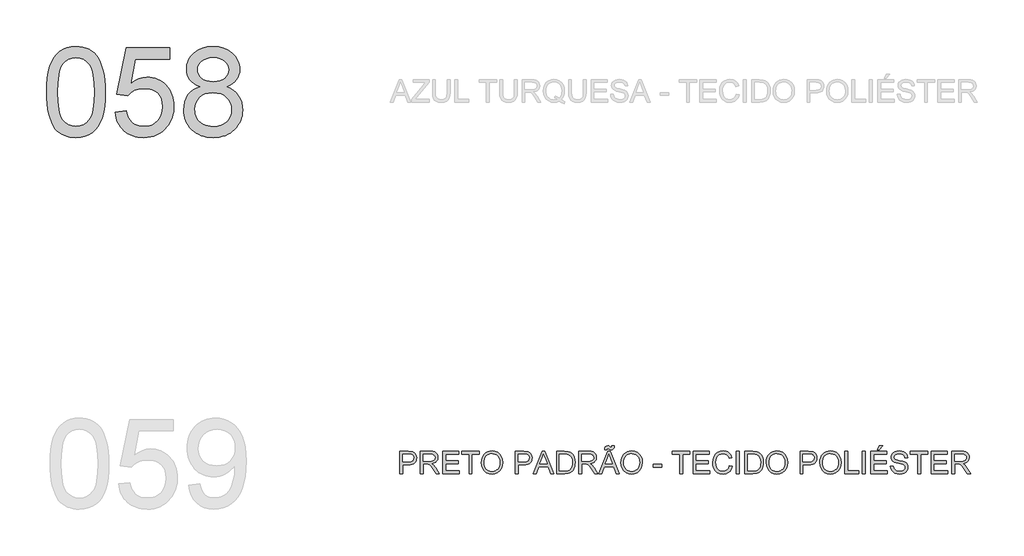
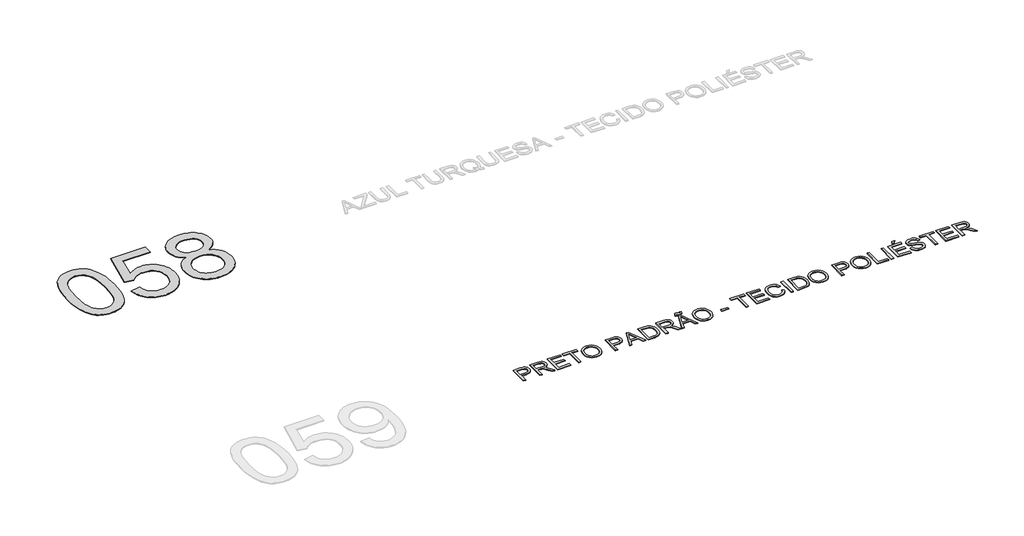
# One storey, part 17 of 35: 2 proxies.
"""IFC4 building model written with IfcOpenShell, lengths in millimetres."""

import ifcopenshell
import ifcopenshell.guid

model = None  # the IFC model being written
_history = None  # IfcOwnerHistory: only IFC2X3 demands one
_inside = {}  # id of a spatial element -> (the spatial element, [elements in it])
_under = {}  # id of a project, library or spatial element -> (it, [spatial elements below it])
_declared = {}  # id of a project -> (the project, [libraries it declares])
_typed = {}  # id of a type object -> (the type object, [elements of that type])
_made_of = {}  # id of a material, layer set ... -> (it, [elements and type objects made of it])


def new_model(schema):
    """Start an empty IFC model of exactly this schema.

    Asked for "IFC4X3", IfcOpenShell would pick the latest addendum, in which some entities
    have other attributes; the version numbers below select the first issue.
    IFC2X3 requires an IfcOwnerHistory on every rooted entity: one is made here for all.
    """
    global model, _history
    if schema == "IFC4X3":
        model = ifcopenshell.file(schema_version=(4, 3, 0, 0))
    else:
        model = ifcopenshell.file(schema=schema)
    _inside.clear()
    _under.clear()
    _declared.clear()
    _typed.clear()
    _made_of.clear()
    _history = None
    if model.schema == "IFC2X3":
        org = make("IfcOrganization", Name="unknown")
        user = make(
            "IfcPersonAndOrganization",
            ThePerson=make("IfcPerson", FamilyName="unknown"),
            TheOrganization=org,
        )
        app = make(
            "IfcApplication",
            ApplicationDeveloper=org,
            Version="unknown",
            ApplicationFullName="unknown",
            ApplicationIdentifier="unknown",
        )
        _history = make(
            "IfcOwnerHistory",
            OwningUser=user,
            OwningApplication=app,
            ChangeAction="ADDED",
            CreationDate=0,
        )
    return model


def make(cls, **values):
    """One entity of the class cls with the attributes given. An attribute that is None is left unset."""
    return model.create_entity(
        cls, **{name: value for name, value in values.items() if value is not None}
    )


def rooted(cls, **values):
    """An entity with a GlobalId (a new one), such as an element, a storey or a relation."""
    return make(cls, GlobalId=ifcopenshell.guid.new(), OwnerHistory=_history, **values)


def si_unit(unit_type, name, prefix=None):
    """IfcSIUnit, for example si_unit("LENGTHUNIT", "METRE", prefix="MILLI")."""
    return make("IfcSIUnit", UnitType=unit_type, Prefix=prefix, Name=name)


def assignment(units):
    """IfcUnitAssignment: the units of a project."""
    return None if units is None else make("IfcUnitAssignment", Units=units)


def point(xyz):
    """IfcCartesianPoint."""
    return None if xyz is None else make("IfcCartesianPoint", Coordinates=xyz)


def direction(xyz):
    """IfcDirection."""
    return None if xyz is None else make("IfcDirection", DirectionRatios=xyz)


def frame(location, z_axis=None, x_axis=None):
    """IfcAxis2Placement3D, a coordinate frame: its origin and axes. An axis left out is left unset."""
    return make(
        "IfcAxis2Placement3D",
        Location=point(location),
        Axis=direction(z_axis),
        RefDirection=direction(x_axis),
    )


def origin():
    """The frame at (0, 0, 0) with its axes left unset."""
    return frame((0.0, 0.0, 0.0))


def origin_with_axes():
    """The frame at (0, 0, 0) with the z axis (0, 0, 1) and the x axis (1, 0, 0) written out."""
    return frame((0.0, 0.0, 0.0), z_axis=(0.0, 0.0, 1.0), x_axis=(1.0, 0.0, 0.0))


def place(relative_to, where):
    """IfcLocalPlacement: puts the frame where relative to a parent placement (None: the world)."""
    return make(
        "IfcLocalPlacement", PlacementRelTo=relative_to, RelativePlacement=where
    )


def context(
    kind, dimensions, precision=None, world=None, true_north=None, identifier=None
):
    """IfcGeometricRepresentationContext, for example the 3D "Model" context."""
    return make(
        "IfcGeometricRepresentationContext",
        ContextIdentifier=identifier,
        ContextType=kind,
        CoordinateSpaceDimension=dimensions,
        Precision=precision,
        WorldCoordinateSystem=world,
        TrueNorth=true_north,
    )


def project(units=None, contexts=None):
    """IfcProject with its units and contexts."""
    return rooted(
        "IfcProject",
        Name="project",
        RepresentationContexts=contexts,
        UnitsInContext=assignment(units),
    )


def spatial(cls, under=None, at=None, **own):
    """A site, building, storey or space (cls), placed at a placement, below another one or the project."""
    s = rooted(cls, ObjectPlacement=at, **own)
    if under is not None:
        _under.setdefault(under.id(), (under, []))[1].append(s)
    return s


def polyline(points):
    """IfcPolyline through the points."""
    return make("IfcPolyline", Points=[point(p) for p in points])


def outline(outer, holes=None, kind="AREA"):
    """IfcArbitraryClosedProfileDef: a profile drawn as a closed curve; with holes, ...WithVoids."""
    if holes is None:
        return make("IfcArbitraryClosedProfileDef", ProfileType=kind, OuterCurve=outer)
    return make(
        "IfcArbitraryProfileDefWithVoids",
        ProfileType=kind,
        OuterCurve=outer,
        InnerCurves=holes,
    )


def extrude(swept, where, along, depth):
    """IfcExtrudedAreaSolid: the profile swept, set in the frame where, extruded along a direction by depth."""
    return make(
        "IfcExtrudedAreaSolid",
        SweptArea=swept,
        Position=where,
        ExtrudedDirection=direction(along),
        Depth=depth,
    )


def shape(context_of_items, identifier, shape_type, items):
    """IfcShapeRepresentation: the items that make up one representation, for example the "Body"."""
    return make(
        "IfcShapeRepresentation",
        ContextOfItems=context_of_items,
        RepresentationIdentifier=identifier,
        RepresentationType=shape_type,
        Items=items,
    )


def made_of(thing, what):
    """Note that an element or type object is made of a material, layer set ...; save() writes the relation."""
    if what is not None:
        _made_of.setdefault(what.id(), (what, []))[1].append(thing)
    return thing


def element(
    cls,
    number,
    at=None,
    inside=None,
    cuts=None,
    type_object=None,
    material=None,
    context=None,
    identifier="Body",
    shape_type=None,
    held_by="IfcProductDefinitionShape",
    body=None,
    shapes=None,
    **own,
):
    """One element of the class cls, such as IfcWall. Its Tag is "e" and its number.

    at: its placement. inside: the storey or other place that contains it. cuts: it is an
    opening in that element (IfcRelVoidsElement). A single representation is given by context,
    identifier, shape_type and body (its items); several are given by shapes. held_by: the class
    of the entity that holds the representations. save() writes the other relations.
    """
    e = rooted(cls, Tag="e%d" % number, ObjectPlacement=at, **own)
    if body is not None:
        shapes = [shape(context, identifier, shape_type, body)]
    if shapes is not None:
        e.Representation = make(held_by, Representations=shapes)
    if inside is not None:
        _inside.setdefault(inside.id(), (inside, []))[1].append(e)
    if cuts is not None:
        rooted(
            "IfcRelVoidsElement", RelatingBuildingElement=cuts, RelatedOpeningElement=e
        )
    if type_object is not None:
        _typed.setdefault(type_object.id(), (type_object, []))[1].append(e)
    return made_of(e, material)


def aggregate(whole, parts):
    """IfcRelAggregates: a whole, such as a stair, and the parts it consists of."""
    return rooted("IfcRelAggregates", RelatingObject=whole, RelatedObjects=parts)


def save(model, path):
    """Write the relations noted so far, then the file.

    IfcRelAggregates (storeys below a building ...), IfcRelContainedInSpatialStructure (elements
    in a storey), IfcRelDefinesByType, IfcRelAssociatesMaterial and IfcRelDeclares: one each for
    every whole, place, type object, material and project.
    """
    for whole, parts in _under.values():
        aggregate(whole, parts)
    for where, things in _inside.values():
        rooted(
            "IfcRelContainedInSpatialStructure",
            RelatedElements=things,
            RelatingStructure=where,
        )
    for kind, things in _typed.values():
        rooted("IfcRelDefinesByType", RelatedObjects=things, RelatingType=kind)
    for what, things in _made_of.values():
        rooted("IfcRelAssociatesMaterial", RelatedObjects=things, RelatingMaterial=what)
    for by, libraries in _declared.values():
        rooted("IfcRelDeclares", RelatingContext=by, RelatedDefinitions=libraries)
    model.write(path)


model = new_model("IFC4")

# Units and contexts
model_context = context("Model", 3, world=origin())
ifc_project = project(units=[si_unit("LENGTHUNIT", "METRE", prefix="MILLI")], contexts=[model_context])

# Site, building, storey
site = spatial("IfcSite", under=ifc_project)
building = spatial("IfcBuilding", under=site)
storey = spatial("IfcBuildingStorey", under=building, Name="Marelli - Linha YOU - Planta Baixa", Elevation=0.0)

# Proxies
placement = place(None, origin())
element("IfcBuildingElementProxy", 1, Name="1200mm Arial", ObjectType="1200mm Arial", at=placement, inside=storey, context=model_context, shape_type="SweptSolid", body=[
    extrude(outline(polyline([(-25181.1313792, -54895.792664), (-25178.3630672, -54794.4319773), (-25170.0581311, -54702.8385576), (-25156.2165711, -54621.0124048), (-25136.838387, -54548.953519), (-25112.0063523, -54486.073289), (-25081.8032405, -54431.7831035), (-25046.2290516, -54386.0829627), (-25005.2837855, -54348.9728664), (-24958.8294866, -54320.2596767), (-24906.728199, -54299.7502555), (-24848.9799228, -54287.4446027), (-24785.584658, -54283.3427185), (-24737.9439396, -54285.7707396), (-24692.7312424, -54293.0548031), (-24649.9465664, -54305.194909), (-24609.5899115, -54322.1910572), (-24572.6361651, -54343.7581391), (-24540.0602144, -54369.6110463), (-24511.8620595, -54399.7497788), (-24488.0417003, -54434.1743365), (-24467.4035204, -54472.7467637), (-24448.7519032, -54515.3291046), (-24417.4083572, -54612.5235278), (-24405.4337983, -54669.6831928), (-24396.8805419, -54735.9479371), (-24391.7485881, -54811.3177609), (-24390.0379368, -54895.792664), (-24392.7786576, -54996.5095573), (-24401.0008202, -55087.6431245), (-24414.7044246, -55169.1933658), (-24433.8894706, -55241.1602811), (-24458.5283672, -55304.0681023), (-24488.5935233, -55358.4410612), (-24524.0849388, -55404.2791578), (-24565.0026137, -55441.5823921), (-24611.5120949, -55470.4887199), (-24663.7789294, -55491.1360968), (-24721.8031171, -55503.524523), (-24785.584658, -55507.6539984), (-24828.2589694, -55505.8605737), (-24868.5788361, -55500.4802995), (-24906.544258, -55491.5131759), (-24942.1552351, -55478.9592028), (-24975.4117675, -55462.8183803), (-25006.3138551, -55443.0907083), (-25034.8614979, -55419.7761868), (-25061.054696, -55392.8748159), (-25089.1976686, -55350.2786794), (-25113.5882449, -55302.0999336), (-25134.2264248, -55248.3385785), (-25151.1122084, -55188.9946142), (-25164.2455956, -55124.0680406), (-25173.6265865, -55053.5588577), (-25179.255181, -54977.4670655), (-25181.1313792, -54895.792664)]), holes=[polyline([(-25030.446914, -54895.4983584), (-25026.03233, -55026.4919399), (-25012.7885782, -55132.5247279), (-25002.8557643, -55176.1808245), (-24990.7156585, -55213.5967226), (-24976.3682607, -55244.7724225), (-24959.8135709, -55269.7079239), (-24922.4367602, -55307.884878), (-24880.9396711, -55335.1541309), (-24835.3223037, -55351.5156826), (-24785.584658, -55356.9695332), (-24735.8470122, -55351.4972885), (-24690.2296448, -55335.0805545), (-24648.7325558, -55307.7193311), (-24611.3557451, -55269.4136183), (-24594.8010553, -55244.418336), (-24580.4536575, -55213.2104465), (-24568.3135516, -55175.7899498), (-24558.3807378, -55132.1568459), (-24545.1369859, -55026.2528166), (-24540.722402, -54895.4983584), (-24544.9898331, -54767.9720648), (-24557.7921266, -54663.8062779), (-24567.3938467, -54620.4835744), (-24579.1292823, -54583.0009976), (-24592.9984335, -54551.3585475), (-24609.0013003, -54525.5562241), (-24645.7527116, -54485.5122689), (-24687.7280473, -54456.9094438), (-24734.9273073, -54439.7477487), (-24787.3504916, -54434.0271837), (-24836.8306199, -54439.067167), (-24881.6754351, -54454.187117), (-24921.8849372, -54479.3870337), (-24957.4591261, -54514.666917), (-24974.5656389, -54543.2145599), (-24989.3912833, -54577.2068562), (-25001.9360594, -54616.6438061), (-25012.199967, -54661.5254095), (-25025.8851772, -54767.6225769), (-25030.446914, -54895.4983584)])]), origin_with_axes(), (0.0, 0.0, 1.0), 10.0),
    extrude(outline(polyline([(-24258.1890297, -55168.6139517), (-24107.5045645, -55149.7783935), (-24096.2473754, -55198.2192552), (-24079.8398384, -55240.2405761), (-24058.2819535, -55275.8423562), (-24031.5737207, -55305.0245955), (-23999.7703222, -55327.7505057), (-23962.9269404, -55343.9832988), (-23921.0435752, -55353.7229746), (-23874.1202267, -55356.9695332), (-23816.7306355, -55352.4537817), (-23766.110073, -55338.9065272), (-23722.2585391, -55316.3277698), (-23685.176034, -55284.7175093), (-23655.6902921, -55245.6392444), (-23634.6290479, -55200.6564734), (-23621.9923013, -55149.7691965), (-23617.7800525, -55092.9774135), (-23621.7255869, -55039.3034304), (-23633.5621901, -54991.5891356), (-23653.2898621, -54949.8345291), (-23680.9086029, -54914.039611), (-23716.510383, -54885.3264213), (-23760.1871728, -54864.817), (-23811.9389725, -54852.5113473), (-23871.765782, -54848.4094631), (-23910.0531006, -54850.0465379), (-23944.8639344, -54854.9577626), (-23976.1982834, -54863.143137), (-24004.0561474, -54874.6026611), (-24051.3289838, -54904.6954083), (-24088.6690063, -54942.5872538), (-24239.3534716, -54923.7516957), (-24107.5045645, -54302.1782766), (-23523.6022617, -54302.1782766), (-23523.6022617, -54452.8627418), (-23985.6620477, -54452.8627418), (-24050.1149732, -54784.8394543), (-23996.9376308, -54746.7268796), (-23942.4727014, -54719.503612), (-23886.7201851, -54703.1696514), (-23829.6800817, -54697.7249978), (-23792.2411909, -54699.4126565), (-23756.2968207, -54704.4756324), (-23721.8469711, -54712.9139257), (-23688.8916422, -54724.7275363), (-23657.4308338, -54739.9164642), (-23627.464546, -54758.4807093), (-23598.9927789, -54780.4202718), (-23572.0155323, -54805.7351516), (-23547.4249202, -54833.7033803), (-23526.1130564, -54863.6029895), (-23508.0799408, -54895.4339791), (-23493.3255735, -54929.1963492), (-23481.8499545, -54964.8900998), (-23473.6530838, -55002.5152308), (-23468.7349614, -55042.0717424), (-23467.0955873, -55083.5596344), (-23473.0000933, -55161.6241938), (-23480.3807258, -55198.6147284), (-23490.7136114, -55234.2440996), (-23503.9987499, -55268.5123075), (-23520.2361415, -55301.4193519), (-23539.4257861, -55332.965233), (-23561.5676836, -55363.1499507), (-23591.5684603, -55397.0180869), (-23624.1811992, -55426.3704716), (-23659.4059003, -55451.2071048), (-23697.2425635, -55471.5279865), (-23737.6911888, -55487.3331167), (-23780.7517764, -55498.6224954), (-23826.4243261, -55505.3961227), (-23874.7088379, -55507.6539984), (-23952.4698947, -55501.8506599), (-23988.529228, -55494.5964869), (-24022.7077646, -55484.4406445), (-24055.0055045, -55471.383133), (-24085.4224477, -55455.4239522), (-24113.9585942, -55436.5631021), (-24140.613944, -55414.8005828), (-24164.9516373, -55390.6422321), (-24186.5348141, -55364.5938875), (-24205.3634745, -55336.6555493), (-24221.4376184, -55306.8272173), (-24234.7572459, -55275.1088915), (-24245.3223569, -55241.500572), (-24258.1890297, -55168.6139517)])), origin_with_axes(), (0.0, 0.0, 1.0), 10.0),
    extrude(outline(polyline([(-23115.6947055, -54824.8650154), (-23159.0404016, -54806.7652212), (-23196.371227, -54785.1337599), (-23227.6871819, -54759.9706314), (-23252.9882661, -54731.2758358), (-23272.4952089, -54699.3252845), (-23286.4287394, -54664.3948891), (-23294.7888578, -54626.4846495), (-23297.5755639, -54585.5945657), (-23291.505511, -54524.1398784), (-23283.9179448, -54495.3301197), (-23273.2953522, -54467.7987509), (-23259.6377331, -54441.545772), (-23242.9450876, -54416.571183), (-23200.4547172, -54370.4571749), (-23175.1674285, -54350.0397242), (-23147.865986, -54332.3446002), (-23118.5503895, -54317.371803), (-23087.2206391, -54305.1213326), (-23018.5186765, -54288.787372), (-22941.7600982, -54283.3427185), (-22864.6336379, -54288.9161307), (-22795.4166405, -54305.6363674), (-22763.7741904, -54318.1765449), (-22734.109106, -54333.5034285), (-22706.4213873, -54351.6170182), (-22680.7110344, -54372.5173141), (-22637.4481118, -54419.5326331), (-22620.4519636, -54444.8613085), (-22606.5460242, -54471.4039944), (-22595.7302935, -54499.1606909), (-22588.0047716, -54528.1313981), (-22583.3694585, -54558.3161158), (-22581.8243541, -54589.7148441), (-22584.574272, -54629.160991), (-22592.8240257, -54665.9767817), (-22606.5736153, -54700.1622161), (-22625.8230407, -54731.7172942), (-22650.6642724, -54760.2189518), (-22681.189281, -54785.2441245), (-22717.3980664, -54806.7928124), (-22759.2906286, -54824.8650154), (-22709.764515, -54845.9354566), (-22666.5475776, -54872.6528865), (-22629.6398164, -54905.0173051), (-22599.0412315, -54943.0287122), (-22575.0277342, -54985.8409794), (-22557.8752362, -55032.607978), (-22547.5837374, -55083.3297081), (-22544.1532378, -55138.0061697), (-22545.854692, -55176.3670647), (-22550.9590547, -55213.1644613), (-22559.4663258, -55248.3983594), (-22571.3765054, -55282.068759), (-22586.6895935, -55314.1756601), (-22605.40559, -55344.7190628), (-22627.5244949, -55373.6989669), (-22653.0463083, -55401.1153726), (-22681.3456308, -55426.085363), (-22711.797063, -55447.7260214), (-22744.4006048, -55466.0373477), (-22779.1562563, -55481.019342), (-22816.0640175, -55492.6720042), (-22855.1238883, -55500.9953343), (-22896.3358688, -55505.9893324), (-22939.699959, -55507.6539984), (-22983.0640492, -55505.9824346), (-23024.2760297, -55500.9677432), (-23063.3359005, -55492.6099241), (-23100.2436617, -55480.9089774), (-23134.9993132, -55465.864903), (-23167.602855, -55447.4777011), (-23198.0542872, -55425.7473715), (-23226.3536096, -55400.6739142), (-23251.875423, -55373.1034579), (-23273.994328, -55343.8821312), (-23292.7103245, -55313.009934), (-23308.0234126, -55280.4868664), (-23319.9335922, -55246.3129283), (-23328.4408633, -55210.4881198), (-23333.545226, -55173.0124408), (-23335.2466802, -55133.8858913), (-23331.6782249, -55076.7170293), (-23320.9728588, -55024.4042096), (-23303.130582, -54976.9474322), (-23278.1513946, -54934.3466971), (-23246.5871194, -54897.3745566), (-23208.9895795, -54866.8035628), (-23165.3587748, -54842.6337157), (-23115.6947055, -54824.8650154)]), holes=[polyline([(-23146.8910987, -54590.0091496), (-23143.5525696, -54624.553269), (-23133.5369822, -54655.7864504), (-23116.8443367, -54683.7086938), (-23093.474633, -54708.3199993), (-23063.7221766, -54728.4063562), (-23027.8812732, -54742.753754), (-22985.9519228, -54751.3621927), (-22937.9341254, -54754.2316723), (-22891.1027474, -54751.3805868), (-22850.083905, -54742.8273304), (-22814.877598, -54728.5719031), (-22785.4838266, -54708.6143049), (-22762.3072609, -54684.5180342), (-22745.7525711, -54657.8465896), (-22735.8197573, -54628.5999709), (-22732.5088193, -54596.7781784), (-22735.9301219, -54563.714784), (-22746.1940295, -54533.3921106), (-22763.3005423, -54505.810158), (-22787.2496602, -54480.9689263), (-22817.3056192, -54460.4319139), (-22852.7326553, -54445.7626193), (-22893.5307686, -54436.9610426), (-22939.699959, -54434.0271837), (-22986.2278343, -54436.8966633), (-23027.2190856, -54445.5051019), (-23062.6737129, -54459.8524998), (-23092.5917162, -54479.9388567), (-23116.347696, -54504.0351274), (-23133.3162531, -54530.4122664), (-23143.4973873, -54559.0702739), (-23146.8910987, -54590.0091496)]), polyline([(-23184.562215, -55128.5883906), (-23182.9895195, -55157.6418712), (-23178.2714329, -55186.2354992), (-23159.3990865, -55242.0431979), (-23144.3986982, -55267.9328933), (-23124.5606616, -55290.7139859), (-23099.8849767, -55310.3864756), (-23070.3716437, -55326.9503624), (-23038.1819691, -55340.0837496), (-23005.4772597, -55349.4647405), (-22972.2575156, -55355.093335), (-22938.5227366, -55356.9695332), (-22884.0394131, -55353.0239988), (-22835.9572364, -55341.1873956), (-22794.2762063, -55321.4597236), (-22758.996323, -55293.8409828), (-22730.9269267, -55260.133795), (-22710.877358, -55222.140782), (-22698.8476167, -55179.8619437), (-22694.837703, -55133.2972801), (-22698.9763754, -55085.9876555), (-22711.3923928, -55042.9454621), (-22732.085755, -55004.1706998), (-22761.0564621, -54969.6633687), (-22797.2928387, -54941.336455), (-22839.7832091, -54921.1029453), (-22888.5275735, -54908.9628395), (-22943.5259317, -54904.9161375), (-22997.2091119, -54908.9076572), (-23044.6566922, -54920.8822161), (-23085.8686727, -54940.8398143), (-23120.8450534, -54968.7804519), (-23148.7213116, -55002.7175659), (-23168.6329246, -55040.6645937), (-23180.5798924, -55082.6215353), (-23184.562215, -55128.5883906)])]), origin_with_axes(), (0.0, 0.0, 1.0), 10.0),
])
element("IfcBuildingElementProxy", 2, Name="300mm Arial", ObjectType="300mm Arial", at=placement, inside=storey, context=model_context, shape_type="SweptSolid", body=[
    extrude(outline(polyline([(-20428.7684248, -60030.5663201), (-20428.7684248, -59729.1973896), (-20317.079451, -59729.1973896), (-20272.0506948, -59732.0668692), (-20251.9735349, -59737.4287493), (-20235.4464363, -59746.1567496), (-20222.1383051, -59758.6463433), (-20211.7180476, -59775.2930036), (-20204.9858071, -59794.9287051), (-20202.7417269, -59816.3854225), (-20204.2569409, -59834.8852883), (-20208.8025828, -59851.9044291), (-20216.3786527, -59867.4428449), (-20226.9851504, -59881.5005356), (-20241.5463796, -59893.1531978), (-20260.9866438, -59901.476528), (-20285.305943, -59906.470526), (-20314.5042771, -59908.1351921), (-20391.0973085, -59908.1351921), (-20391.0973085, -60030.5663201), (-20428.7684248, -60030.5663201)]), holes=[polyline([(-20391.0973085, -59870.4640758), (-20312.2969851, -59870.4640758), (-20278.8932999, -59867.005985), (-20256.8203802, -59856.6317127), (-20244.5147275, -59839.9850525), (-20240.4128432, -59817.7097977), (-20242.8316674, -59800.7872259), (-20250.0881397, -59786.5134045), (-20261.2809494, -59775.7712502), (-20275.5087856, -59769.4436799), (-20313.1799019, -59766.8685059), (-20391.0973085, -59766.8685059), (-20391.0973085, -59870.4640758)])]), origin_with_axes(), (0.0, 0.0, 1.0), 10.0),
    extrude(outline(polyline([(-20150.943942, -60030.5663201), (-20150.943942, -59729.1973896), (-20021.0815977, -59729.1973896), (-19986.1787934, -59731.2299376), (-19960.7857387, -59737.3275817), (-19942.2260921, -59748.5847708), (-19927.8235119, -59766.0959537), (-19918.5804768, -59787.8101885), (-19915.4994651, -59811.6765329), (-19920.6038278, -59841.3646099), (-19935.9169158, -59865.9759154), (-19947.516695, -59876.0052983), (-19961.8985818, -59884.0205273), (-19999.008678, -59894.0085235), (-19977.5979459, -59910.1217548), (-19947.0637403, -59948.8965171), (-19896.8110598, -60030.5663201), (-19940.5890172, -60030.5663201), (-19979.8052379, -59968.0999573), (-20008.1321515, -59926.750021), (-20028.0345674, -59907.2154871), (-20045.9504206, -59900.0417882), (-20067.8026111, -59898.717413), (-20113.2728257, -59898.717413), (-20113.2728257, -60030.5663201), (-20150.943942, -60030.5663201)]), holes=[polyline([(-20113.2728257, -59861.0462967), (-20028.9542724, -59861.0462967), (-20004.7384401, -59859.7127245), (-19985.9488672, -59855.7120078), (-19971.8038045, -59848.7774322), (-19961.5215027, -59838.6422832), (-19955.2583117, -59826.3826157), (-19953.1705814, -59813.0744845), (-19957.152904, -59794.6987789), (-19969.0998718, -59779.8915286), (-19989.6552783, -59770.1242616), (-20019.4629169, -59766.8685059), (-20113.2728257, -59766.8685059), (-20113.2728257, -59861.0462967)])]), origin_with_axes(), (0.0, 0.0, 1.0), 10.0),
    extrude(outline(polyline([(-19849.5750116, -60030.5663201), (-19849.5750116, -59729.1973896), (-19632.9660928, -59729.1973896), (-19632.9660928, -59766.8685059), (-19811.9038953, -59766.8685059), (-19811.9038953, -59856.3374072), (-19642.3838719, -59856.3374072), (-19642.3838719, -59894.0085235), (-19811.9038953, -59894.0085235), (-19811.9038953, -59992.8952038), (-19628.2572033, -59992.8952038), (-19628.2572033, -60030.5663201), (-19849.5750116, -60030.5663201)])), origin_with_axes(), (0.0, 0.0, 1.0), 10.0),
    extrude(outline(polyline([(-19496.4082962, -60030.5663201), (-19496.4082962, -59766.8685059), (-19595.2949765, -59766.8685059), (-19595.2949765, -59729.1973896), (-19359.8504996, -59729.1973896), (-19359.8504996, -59766.8685059), (-19458.7371799, -59766.8685059), (-19458.7371799, -60030.5663201), (-19496.4082962, -60030.5663201)])), origin_with_axes(), (0.0, 0.0, 1.0), 10.0),
    extrude(outline(polyline([(-19331.5971624, -59883.8549804), (-19329.0863677, -59848.5061192), (-19321.5539839, -59817.213157), (-19309.0000108, -59789.9760937), (-19291.4244485, -59766.7949295), (-19269.8803591, -59748.2858666), (-19245.420805, -59735.0651074), (-19218.045786, -59727.1326519), (-19187.7553023, -59724.4885001), (-19148.2263819, -59729.454907), (-19112.7809516, -59744.3541278), (-19083.350392, -59768.1376988), (-19061.8660835, -59799.7571563), (-19048.7326963, -59837.68579), (-19044.3549005, -59880.3968896), (-19048.9626225, -59923.6782064), (-19062.7857885, -59962.140269), (-19085.0610433, -59993.8149087), (-19115.0250318, -60016.733957), (-19150.1669594, -60030.6398965), (-19187.9760314, -60035.2752096), (-19228.1119571, -60030.1524528), (-19263.7597225, -60014.7841825), (-19293.1167057, -59990.5591531), (-19314.380285, -59958.8661192), (-19327.292943, -59922.3998164), (-19331.5971624, -59883.8549804)]), holes=[polyline([(-19293.9260461, -59884.2228624), (-19292.0429501, -59909.1974513), (-19286.3936622, -59931.3669401), (-19276.9781824, -59950.7313286), (-19263.7965107, -59967.2906169), (-19247.7729505, -59980.5527628), (-19229.8318054, -59990.0257242), (-19209.9730755, -59995.709501), (-19188.1967606, -59997.6040933), (-19166.0479653, -59995.6911069), (-19145.9547105, -59989.9521478), (-19127.9169965, -59980.3872159), (-19111.934823, -59966.9963113), (-19098.8497203, -59950.0875351), (-19089.5032184, -59929.9689885), (-19083.8953172, -59906.6406715), (-19082.0260168, -59880.102584), (-19085.2265902, -59846.7540812), (-19094.8283103, -59817.9305269), (-19110.5828567, -59794.358488), (-19132.2419092, -59776.7645316), (-19158.3707279, -59765.8108452), (-19187.5345731, -59762.1596164), (-19208.5544306, -59763.9185522), (-19228.0567748, -59769.1953595), (-19246.0416059, -59777.9900385), (-19262.5089237, -59790.302589), (-19276.2539147, -59806.7262208), (-19286.0717655, -59827.8541437), (-19291.9624759, -59853.6863575), (-19293.9260461, -59884.2228624)])]), origin_with_axes(), (0.0, 0.0, 1.0), 10.0),
    extrude(outline(polyline([(-18874.8348772, -60030.5663201), (-18874.8348772, -59729.1973896), (-18763.1459034, -59729.1973896), (-18718.1171472, -59732.0668692), (-18698.0399873, -59737.4287493), (-18681.5128887, -59746.1567496), (-18668.2047575, -59758.6463433), (-18657.7845, -59775.2930036), (-18651.0522595, -59794.9287051), (-18648.8081793, -59816.3854225), (-18650.3233933, -59834.8852883), (-18654.8690352, -59851.9044291), (-18662.445105, -59867.4428449), (-18673.0516028, -59881.5005356), (-18687.612832, -59893.1531978), (-18707.0530962, -59901.476528), (-18731.3723953, -59906.470526), (-18760.5707295, -59908.1351921), (-18837.1637608, -59908.1351921), (-18837.1637608, -60030.5663201), (-18874.8348772, -60030.5663201)]), holes=[polyline([(-18837.1637608, -59870.4640758), (-18758.3634375, -59870.4640758), (-18724.9597523, -59867.005985), (-18702.8868326, -59856.6317127), (-18690.5811799, -59839.9850525), (-18686.4792956, -59817.7097977), (-18688.8981197, -59800.7872259), (-18696.1545921, -59786.5134045), (-18707.3474018, -59775.7712502), (-18721.575238, -59769.4436799), (-18759.2463543, -59766.8685059), (-18837.1637608, -59766.8685059), (-18837.1637608, -59870.4640758)])]), origin_with_axes(), (0.0, 0.0, 1.0), 10.0),
    extrude(outline(polyline([(-18632.1063367, -60030.5663201), (-18511.8089243, -59729.1973896), (-18479.7296143, -59729.1973896), (-18359.4322019, -60030.5663201), (-18399.2370338, -60030.5663201), (-18433.7443649, -59936.3885293), (-18557.8677501, -59936.3885293), (-18592.3015049, -60030.5663201), (-18632.1063367, -60030.5663201)]), holes=[polyline([(-18544.0353871, -59898.717413), (-18447.5031516, -59898.717413), (-18474.6528428, -59824.6259792), (-18495.7692693, -59766.8685059), (-18514.5312511, -59818.1512561), (-18544.0353871, -59898.717413)])]), origin_with_axes(), (0.0, 0.0, 1.0), 10.0),
    extrude(outline(polyline([(-18319.1859116, -60030.5663201), (-18319.1859116, -59729.1973896), (-18215.2224598, -59729.1973896), (-18161.4381121, -59733.5383972), (-18137.4154178, -59741.9077126), (-18117.1451199, -59755.0962821), (-18096.3046049, -59778.0521186), (-18081.4605664, -59806.5997614), (-18072.5762162, -59840.1873876), (-18069.6147661, -59878.2631741), (-18071.619723, -59910.6091985), (-18077.6345936, -59939.0740679), (-18086.7948553, -59963.3082943), (-18098.2359853, -59982.9623899), (-18111.4061608, -59998.477813), (-18125.7535586, -60010.2960221), (-18142.2254749, -60019.0608107), (-18161.7692059, -60025.4159721), (-18210.2192647, -60030.5663201), (-18319.1859116, -60030.5663201)]), holes=[polyline([(-18281.5147953, -59992.8952038), (-18214.8545778, -59992.8952038), (-18187.2818223, -59991.5340404), (-18166.3677308, -59987.4505502), (-18150.5855932, -59980.8838566), (-18138.4086992, -59972.0730828), (-18125.3212972, -59955.7667134), (-18115.4896509, -59934.6594839), (-18109.3368245, -59908.6594239), (-18107.2858824, -59877.6745629), (-18111.3049932, -59836.6189322), (-18123.3623256, -59806.3054558), (-18141.1770112, -59785.4833349), (-18162.4681817, -59772.9017706), (-18184.1364312, -59768.3768221), (-18215.8846474, -59766.8685059), (-18281.5147953, -59766.8685059), (-18281.5147953, -59992.8952038)])]), origin_with_axes(), (0.0, 0.0, 1.0), 10.0),
    extrude(outline(polyline([(-18017.8169812, -60030.5663201), (-18017.8169812, -59729.1973896), (-17887.9546369, -59729.1973896), (-17853.0518326, -59731.2299376), (-17827.6587779, -59737.3275817), (-17809.0991312, -59748.5847708), (-17794.6965511, -59766.0959537), (-17785.453516, -59787.8101885), (-17782.3725043, -59811.6765329), (-17787.476867, -59841.3646099), (-17802.789955, -59865.9759154), (-17814.3897342, -59876.0052983), (-17828.7716209, -59884.0205273), (-17865.8817172, -59894.0085235), (-17844.4709851, -59910.1217548), (-17813.9367795, -59948.8965171), (-17763.6840989, -60030.5663201), (-17807.4620563, -60030.5663201), (-17846.678277, -59968.0999573), (-17875.0051907, -59926.750021), (-17894.9076066, -59907.2154871), (-17912.8234598, -59900.0417882), (-17934.6756503, -59898.717413), (-17980.1458649, -59898.717413), (-17980.1458649, -60030.5663201), (-18017.8169812, -60030.5663201)]), holes=[polyline([(-17980.1458649, -59861.0462967), (-17895.8273116, -59861.0462967), (-17871.6114793, -59859.7127245), (-17852.8219064, -59855.7120078), (-17838.6768436, -59848.7774322), (-17828.3945419, -59838.6422832), (-17822.1313509, -59826.3826157), (-17820.0436206, -59813.0744845), (-17824.0259432, -59794.6987789), (-17835.972911, -59779.8915286), (-17856.5283175, -59770.1242616), (-17886.3359561, -59766.8685059), (-17980.1458649, -59766.8685059), (-17980.1458649, -59861.0462967)])]), origin_with_axes(), (0.0, 0.0, 1.0), 10.0),
    extrude(outline(polyline([(-17674.0680449, -59710.3618315), (-17671.2169594, -59687.2036599), (-17662.3693974, -59669.2326244), (-17649.0336751, -59657.6995239), (-17632.423803, -59653.855157), (-17618.5178636, -59656.8901835), (-17602.2574794, -59665.9952628), (-17587.0271648, -59672.6907152), (-17579.0441255, -59668.9015306), (-17575.1813646, -59653.855157), (-17542.2191378, -59653.855157), (-17545.5024846, -59678.5768271), (-17554.1753027, -59696.2351629), (-17567.0787636, -59706.8301643), (-17583.0540393, -59710.3618315), (-17597.0519492, -59707.4923519), (-17612.8524809, -59698.8839132), (-17628.7449831, -59691.5262733), (-17637.7213038, -59696.3087393), (-17641.1058181, -59710.3618315), (-17674.0680449, -59710.3618315)])), origin_with_axes(), (0.0, 0.0, 1.0), 10.0),
    extrude(outline(polyline([(-17751.5439931, -60030.5663201), (-17631.2465807, -59729.1973896), (-17599.1672707, -59729.1973896), (-17478.8698583, -60030.5663201), (-17518.6746901, -60030.5663201), (-17553.1820213, -59936.3885293), (-17677.3054065, -59936.3885293), (-17711.7391612, -60030.5663201), (-17751.5439931, -60030.5663201)]), holes=[polyline([(-17663.4730434, -59898.717413), (-17566.9408079, -59898.717413), (-17594.0904991, -59824.6259792), (-17615.2069257, -59766.8685059), (-17633.9689074, -59818.1512561), (-17663.4730434, -59898.717413)])]), origin_with_axes(), (0.0, 0.0, 1.0), 10.0),
    extrude(outline(polyline([(-17452.7502366, -59883.8549804), (-17450.239442, -59848.5061192), (-17442.7070581, -59817.213157), (-17430.153085, -59789.9760937), (-17412.5775227, -59766.7949295), (-17391.0334334, -59748.2858666), (-17366.5738792, -59735.0651074), (-17339.1988603, -59727.1326519), (-17308.9083765, -59724.4885001), (-17269.3794561, -59729.454907), (-17233.9340259, -59744.3541278), (-17204.5034663, -59768.1376988), (-17183.0191577, -59799.7571563), (-17169.8857705, -59837.68579), (-17165.5079748, -59880.3968896), (-17170.1156968, -59923.6782064), (-17183.9388627, -59962.140269), (-17206.2141175, -59993.8149087), (-17236.178106, -60016.733957), (-17271.3200336, -60030.6398965), (-17309.1291057, -60035.2752096), (-17349.2650314, -60030.1524528), (-17384.9127967, -60014.7841825), (-17414.2697799, -59990.5591531), (-17435.5333592, -59958.8661192), (-17448.4460173, -59922.3998164), (-17452.7502366, -59883.8549804)]), holes=[polyline([(-17415.0791203, -59884.2228624), (-17413.1960243, -59909.1974513), (-17407.5467364, -59931.3669401), (-17398.1312566, -59950.7313286), (-17384.9495849, -59967.2906169), (-17368.9260247, -59980.5527628), (-17350.9848797, -59990.0257242), (-17331.1261497, -59995.709501), (-17309.3498349, -59997.6040933), (-17287.2010395, -59995.6911069), (-17267.1077848, -59989.9521478), (-17249.0700707, -59980.3872159), (-17233.0878973, -59966.9963113), (-17220.0027946, -59950.0875351), (-17210.6562926, -59929.9689885), (-17205.0483915, -59906.6406715), (-17203.1790911, -59880.102584), (-17206.3796644, -59846.7540812), (-17215.9813845, -59817.9305269), (-17231.7359309, -59794.358488), (-17253.3949834, -59776.7645316), (-17279.5238021, -59765.8108452), (-17308.6876473, -59762.1596164), (-17329.7075048, -59763.9185522), (-17349.2098491, -59769.1953595), (-17367.1946801, -59777.9900385), (-17383.6619979, -59790.302589), (-17397.4069889, -59806.7262208), (-17407.2248397, -59827.8541437), (-17413.1155501, -59853.6863575), (-17415.0791203, -59884.2228624)])]), origin_with_axes(), (0.0, 0.0, 1.0), 10.0),
    extrude(outline(polyline([(-17019.5323991, -59941.0974188), (-17019.5323991, -59903.4263025), (-16901.8101606, -59903.4263025), (-16901.8101606, -59941.0974188), (-17019.5323991, -59941.0974188)])), origin_with_axes(), (0.0, 0.0, 1.0), 10.0),
    extrude(outline(polyline([(-16661.6567942, -60030.5663201), (-16661.6567942, -59766.8685059), (-16760.5434745, -59766.8685059), (-16760.5434745, -59729.1973896), (-16525.0989976, -59729.1973896), (-16525.0989976, -59766.8685059), (-16623.9856779, -59766.8685059), (-16623.9856779, -60030.5663201), (-16661.6567942, -60030.5663201)])), origin_with_axes(), (0.0, 0.0, 1.0), 10.0),
    extrude(outline(polyline([(-16482.7189917, -60030.5663201), (-16482.7189917, -59729.1973896), (-16266.110073, -59729.1973896), (-16266.110073, -59766.8685059), (-16445.0478754, -59766.8685059), (-16445.0478754, -59856.3374072), (-16275.527852, -59856.3374072), (-16275.527852, -59894.0085235), (-16445.0478754, -59894.0085235), (-16445.0478754, -59992.8952038), (-16261.4011834, -59992.8952038), (-16261.4011834, -60030.5663201), (-16482.7189917, -60030.5663201)])), origin_with_axes(), (0.0, 0.0, 1.0), 10.0),
    extrude(outline(polyline([(-15992.9944797, -59923.4390831), (-15955.3233634, -59933.1511677), (-15962.7775724, -59956.5783531), (-15972.7057877, -59977.0486868), (-15985.1080095, -59994.5621691), (-15999.9842376, -60009.1187997), (-16016.9987799, -60020.5622291), (-16035.815944, -60028.7361071), (-16056.4357298, -60033.640434), (-16078.8581374, -60035.2752096), (-16122.5533214, -60030.3271968), (-16157.2537906, -60015.4831583), (-16183.8516588, -59991.2581289), (-16203.23904, -59958.1671434), (-16215.0756432, -59919.2636224), (-16219.0211776, -59877.6009865), (-16214.5606084, -59833.6574821), (-16201.1789008, -59795.7104543), (-16179.5750306, -59764.9647166), (-16150.4479737, -59742.6250824), (-16115.9038543, -59729.0226457), (-16078.048797, -59724.4885001), (-16036.744846, -59730.3562179), (-16018.7761098, -59737.6908652), (-16002.5961998, -59747.9593714), (-15988.4718305, -59760.8904235), (-15976.6697162, -59776.2127086), (-15960.032253, -59814.0309777), (-15997.7033693, -59823.0072984), (-16010.7631801, -59795.5357104), (-16028.6054569, -59776.6909552), (-16051.4509288, -59765.7924511), (-16079.520325, -59762.1596164), (-16111.8755465, -59766.1879242), (-16138.4550206, -59778.2728478), (-16158.624151, -59797.1451941), (-16171.7483412, -59821.5357704), (-16178.9496312, -59849.1085259), (-16181.3500613, -59877.5274101), (-16178.5081729, -59912.3290468), (-16169.9825076, -59942.421794), (-16155.4511688, -59966.6560205), (-16134.5922597, -59983.8820949), (-16109.5854811, -59994.1735937), (-16082.6105338, -59997.6040933), (-16051.1658202, -59992.931992), (-16024.9634251, -59978.9156879), (-16005.1805708, -59955.702334), (-15992.9944797, -59923.4390831)])), origin_with_axes(), (0.0, 0.0, 1.0), 10.0),
    extrude(outline(polyline([(-15898.816689, -60030.5663201), (-15898.816689, -59729.1973896), (-15861.1455727, -59729.1973896), (-15861.1455727, -60030.5663201), (-15898.816689, -60030.5663201)])), origin_with_axes(), (0.0, 0.0, 1.0), 10.0),
    extrude(outline(polyline([(-15785.8033401, -60030.5663201), (-15785.8033401, -59729.1973896), (-15681.8398882, -59729.1973896), (-15628.0555405, -59733.5383972), (-15604.0328462, -59741.9077126), (-15583.7625483, -59755.0962821), (-15562.9220333, -59778.0521186), (-15548.0779948, -59806.5997614), (-15539.1936446, -59840.1873876), (-15536.2321945, -59878.2631741), (-15538.2371514, -59910.6091985), (-15544.252022, -59939.0740679), (-15553.4122837, -59963.3082943), (-15564.8534137, -59982.9623899), (-15578.0235892, -59998.477813), (-15592.370987, -60010.2960221), (-15608.8429033, -60019.0608107), (-15628.3866343, -60025.4159721), (-15676.8366931, -60030.5663201), (-15785.8033401, -60030.5663201)]), holes=[polyline([(-15748.1322237, -59992.8952038), (-15681.4720062, -59992.8952038), (-15653.8992507, -59991.5340404), (-15632.9851593, -59987.4505502), (-15617.2030217, -59980.8838566), (-15605.0261276, -59972.0730828), (-15591.9387256, -59955.7667134), (-15582.1070793, -59934.6594839), (-15575.954253, -59908.6594239), (-15573.9033108, -59877.6745629), (-15577.9224216, -59836.6189322), (-15589.979754, -59806.3054558), (-15607.7944396, -59785.4833349), (-15629.0856101, -59772.9017706), (-15650.7538596, -59768.3768221), (-15682.5020758, -59766.8685059), (-15748.1322237, -59766.8685059), (-15748.1322237, -59992.8952038)])]), origin_with_axes(), (0.0, 0.0, 1.0), 10.0),
    extrude(outline(polyline([(-15498.5610782, -59883.8549804), (-15496.0502836, -59848.5061192), (-15488.5178998, -59817.213157), (-15475.9639267, -59789.9760937), (-15458.3883643, -59766.7949295), (-15436.844275, -59748.2858666), (-15412.3847208, -59735.0651074), (-15385.0097019, -59727.1326519), (-15354.7192181, -59724.4885001), (-15315.1902977, -59729.454907), (-15279.7448675, -59744.3541278), (-15250.3143079, -59768.1376988), (-15228.8299994, -59799.7571563), (-15215.6966121, -59837.68579), (-15211.3188164, -59880.3968896), (-15215.9265384, -59923.6782064), (-15229.7497043, -59962.140269), (-15252.0249592, -59993.8149087), (-15281.9889477, -60016.733957), (-15317.1308752, -60030.6398965), (-15354.9399473, -60035.2752096), (-15395.075873, -60030.1524528), (-15430.7236383, -60014.7841825), (-15460.0806215, -59990.5591531), (-15481.3442008, -59958.8661192), (-15494.2568589, -59922.3998164), (-15498.5610782, -59883.8549804)]), holes=[polyline([(-15460.8899619, -59884.2228624), (-15459.006866, -59909.1974513), (-15453.3575781, -59931.3669401), (-15443.9420982, -59950.7313286), (-15430.7604265, -59967.2906169), (-15414.7368664, -59980.5527628), (-15396.7957213, -59990.0257242), (-15376.9369914, -59995.709501), (-15355.1606765, -59997.6040933), (-15333.0118811, -59995.6911069), (-15312.9186264, -59989.9521478), (-15294.8809123, -59980.3872159), (-15278.8987389, -59966.9963113), (-15265.8136362, -59950.0875351), (-15256.4671342, -59929.9689885), (-15250.8592331, -59906.6406715), (-15248.9899327, -59880.102584), (-15252.190506, -59846.7540812), (-15261.7922261, -59817.9305269), (-15277.5467726, -59794.358488), (-15299.205825, -59776.7645316), (-15325.3346437, -59765.8108452), (-15354.4984889, -59762.1596164), (-15375.5183464, -59763.9185522), (-15395.0206907, -59769.1953595), (-15413.0055217, -59777.9900385), (-15429.4728395, -59790.302589), (-15443.2178306, -59806.7262208), (-15453.0356813, -59827.8541437), (-15458.9263918, -59853.6863575), (-15460.8899619, -59884.2228624)])]), origin_with_axes(), (0.0, 0.0, 1.0), 10.0),
    extrude(outline(polyline([(-15041.798793, -60030.5663201), (-15041.798793, -59729.1973896), (-14930.1098193, -59729.1973896), (-14885.0810631, -59732.0668692), (-14865.0039032, -59737.4287493), (-14848.4768045, -59746.1567496), (-14835.1686734, -59758.6463433), (-14824.7484159, -59775.2930036), (-14818.0161753, -59794.9287051), (-14815.7720952, -59816.3854225), (-14817.2873091, -59834.8852883), (-14821.832951, -59851.9044291), (-14829.4090209, -59867.4428449), (-14840.0155187, -59881.5005356), (-14854.5767479, -59893.1531978), (-14874.0170121, -59901.476528), (-14898.3363112, -59906.470526), (-14927.5346453, -59908.1351921), (-15004.1276767, -59908.1351921), (-15004.1276767, -60030.5663201), (-15041.798793, -60030.5663201)]), holes=[polyline([(-15004.1276767, -59870.4640758), (-14925.3273533, -59870.4640758), (-14891.9236682, -59867.005985), (-14869.8507485, -59856.6317127), (-14857.5450957, -59839.9850525), (-14853.4432115, -59817.7097977), (-14855.8620356, -59800.7872259), (-14863.118508, -59786.5134045), (-14874.3113177, -59775.7712502), (-14888.5391538, -59769.4436799), (-14926.2102701, -59766.8685059), (-15004.1276767, -59766.8685059), (-15004.1276767, -59870.4640758)])]), origin_with_axes(), (0.0, 0.0, 1.0), 10.0),
    extrude(outline(polyline([(-14778.1009789, -59883.8549804), (-14775.5901842, -59848.5061192), (-14768.0578004, -59817.213157), (-14755.5038273, -59789.9760937), (-14737.928265, -59766.7949295), (-14716.3841756, -59748.2858666), (-14691.9246215, -59735.0651074), (-14664.5496025, -59727.1326519), (-14634.2591188, -59724.4885001), (-14594.7301984, -59729.454907), (-14559.2847681, -59744.3541278), (-14529.8542085, -59768.1376988), (-14508.3699, -59799.7571563), (-14495.2365128, -59837.68579), (-14490.858717, -59880.3968896), (-14495.466439, -59923.6782064), (-14509.289605, -59962.140269), (-14531.5648598, -59993.8149087), (-14561.5288483, -60016.733957), (-14596.6707759, -60030.6398965), (-14634.4798479, -60035.2752096), (-14674.6157736, -60030.1524528), (-14710.263539, -60014.7841825), (-14739.6205222, -59990.5591531), (-14760.8841015, -59958.8661192), (-14773.7967595, -59922.3998164), (-14778.1009789, -59883.8549804)]), holes=[polyline([(-14740.4298626, -59884.2228624), (-14738.5467666, -59909.1974513), (-14732.8974787, -59931.3669401), (-14723.4819989, -59950.7313286), (-14710.3003272, -59967.2906169), (-14694.276767, -59980.5527628), (-14676.3356219, -59990.0257242), (-14656.476892, -59995.709501), (-14634.7005771, -59997.6040933), (-14612.5517818, -59995.6911069), (-14592.458527, -59989.9521478), (-14574.420813, -59980.3872159), (-14558.4386395, -59966.9963113), (-14545.3535368, -59950.0875351), (-14536.0070349, -59929.9689885), (-14530.3991337, -59906.6406715), (-14528.5298333, -59880.102584), (-14531.7304067, -59846.7540812), (-14541.3321268, -59817.9305269), (-14557.0866732, -59794.358488), (-14578.7457257, -59776.7645316), (-14604.8745444, -59765.8108452), (-14634.0383896, -59762.1596164), (-14655.0582471, -59763.9185522), (-14674.5605913, -59769.1953595), (-14692.5454224, -59777.9900385), (-14709.0127402, -59790.302589), (-14722.7577312, -59806.7262208), (-14732.575582, -59827.8541437), (-14738.4662924, -59853.6863575), (-14740.4298626, -59884.2228624)])]), origin_with_axes(), (0.0, 0.0, 1.0), 10.0),
    extrude(outline(polyline([(-14439.0609321, -60030.5663201), (-14439.0609321, -59729.1973896), (-14401.3898158, -59729.1973896), (-14401.3898158, -59992.8952038), (-14250.7053506, -59992.8952038), (-14250.7053506, -60030.5663201), (-14439.0609321, -60030.5663201)])), origin_with_axes(), (0.0, 0.0, 1.0), 10.0),
    extrude(outline(polyline([(-14203.6164552, -60030.5663201), (-14203.6164552, -59729.1973896), (-14165.9453389, -59729.1973896), (-14165.9453389, -60030.5663201), (-14203.6164552, -60030.5663201)])), origin_with_axes(), (0.0, 0.0, 1.0), 10.0),
    extrude(outline(polyline([(-14090.6031063, -60030.5663201), (-14090.6031063, -59729.1973896), (-13873.9941875, -59729.1973896), (-13873.9941875, -59766.8685059), (-14052.93199, -59766.8685059), (-14052.93199, -59856.3374072), (-13883.4119666, -59856.3374072), (-13883.4119666, -59894.0085235), (-14052.93199, -59894.0085235), (-14052.93199, -59992.8952038), (-13869.285298, -59992.8952038), (-13869.285298, -60030.5663201), (-14090.6031063, -60030.5663201)])), origin_with_axes(), (0.0, 0.0, 1.0), 10.0),
    extrude(outline(polyline([(-14005.8430946, -59710.3618315), (-13977.5897574, -59653.855157), (-13930.500862, -59653.855157), (-13977.5897574, -59710.3618315), (-14005.8430946, -59710.3618315)])), origin_with_axes(), (0.0, 0.0, 1.0), 10.0),
    extrude(outline(polyline([(-13826.9052921, -59926.9707502), (-13789.2341758, -59926.9707502), (-13784.9115624, -59947.8756446), (-13777.09407, -59964.6786547), (-13764.8987818, -59978.0143771), (-13747.4427812, -59988.517408), (-13726.1056255, -59995.332422), (-13702.2668722, -59997.6040933), (-13681.2792043, -59995.884245), (-13662.9034987, -59990.7247), (-13648.0134749, -59982.5577197), (-13637.4828528, -59971.8155654), (-13631.2196619, -59959.4823215), (-13629.1319315, -59946.5420724), (-13630.69543, -59933.932917), (-13635.3859254, -59923.0344129), (-13644.9140691, -59913.7361954), (-13660.9905123, -59905.9279001), (-13715.8417178, -59891.5437141), (-13751.8481681, -59882.0247675), (-13774.886778, -59872.9656733), (-13793.6395627, -59860.2921386), (-13806.9292998, -59844.9330653), (-13814.8479597, -59827.2195472), (-13817.4875131, -59807.4826782), (-13814.2225604, -59785.4189555), (-13804.4277022, -59764.845155), (-13788.3604561, -59747.4075484), (-13766.2783393, -59734.7524077), (-13739.7724416, -59727.054477), (-13710.4338525, -59724.4885001), (-13678.6488481, -59727.1740386), (-13650.8369692, -59735.2306543), (-13627.9914973, -59748.4928003), (-13611.1057138, -59766.7949295), (-13600.4187418, -59788.9966079), (-13596.1697048, -59813.9574013), (-13633.8408211, -59813.9574013), (-13640.7570026, -59791.4798114), (-13655.1779768, -59775.2562154), (-13677.710749, -59765.4337661), (-13708.9623245, -59762.1596164), (-13740.949664, -59765.3969779), (-13762.893825, -59775.1090626), (-13775.5857538, -59789.4012781), (-13779.8163968, -59806.3790322), (-13776.8181585, -59820.8551887), (-13767.8234437, -59832.4986539), (-13746.5598644, -59842.9097143), (-13706.3135741, -59853.541504), (-13664.7796969, -59863.6398648), (-13639.6533566, -59872.4506385), (-13618.1782451, -59886.1174547), (-13603.1962509, -59902.9848441), (-13594.3946741, -59922.868866), (-13591.4608152, -59945.5855792), (-13594.8361325, -59968.8081301), (-13604.9620844, -59990.6511236), (-13621.4248037, -60009.4498935), (-13643.8104231, -60023.539774), (-13670.7301881, -60032.3413507), (-13700.7953442, -60035.2752096), (-13737.7031054, -60032.1114244), (-13768.0809611, -60022.620069), (-13792.2783993, -60006.764355), (-13810.6449079, -59984.5074943), (-13822.4355259, -59957.3945912), (-13826.9052921, -59926.9707502)])), origin_with_axes(), (0.0, 0.0, 1.0), 10.0),
    extrude(outline(polyline([(-13459.6119082, -60030.5663201), (-13459.6119082, -59766.8685059), (-13558.4985885, -59766.8685059), (-13558.4985885, -59729.1973896), (-13323.0541115, -59729.1973896), (-13323.0541115, -59766.8685059), (-13421.9407918, -59766.8685059), (-13421.9407918, -60030.5663201), (-13459.6119082, -60030.5663201)])), origin_with_axes(), (0.0, 0.0, 1.0), 10.0),
    extrude(outline(polyline([(-13280.6741057, -60030.5663201), (-13280.6741057, -59729.1973896), (-13064.0651869, -59729.1973896), (-13064.0651869, -59766.8685059), (-13243.0029894, -59766.8685059), (-13243.0029894, -59856.3374072), (-13073.482966, -59856.3374072), (-13073.482966, -59894.0085235), (-13243.0029894, -59894.0085235), (-13243.0029894, -59992.8952038), (-13059.3562974, -59992.8952038), (-13059.3562974, -60030.5663201), (-13280.6741057, -60030.5663201)])), origin_with_axes(), (0.0, 0.0, 1.0), 10.0),
    extrude(outline(polyline([(-13002.8496229, -60030.5663201), (-13002.8496229, -59729.1973896), (-12872.9872786, -59729.1973896), (-12838.0844743, -59731.2299376), (-12812.6914196, -59737.3275817), (-12794.131773, -59748.5847708), (-12779.7291929, -59766.0959537), (-12770.4861577, -59787.8101885), (-12767.405146, -59811.6765329), (-12772.5095087, -59841.3646099), (-12787.8225968, -59865.9759154), (-12799.4223759, -59876.0052983), (-12813.8042627, -59884.0205273), (-12850.9143589, -59894.0085235), (-12829.5036268, -59910.1217548), (-12798.9694212, -59948.8965171), (-12748.7167407, -60030.5663201), (-12792.4946981, -60030.5663201), (-12831.7109188, -59968.0999573), (-12860.0378324, -59926.750021), (-12879.9402484, -59907.2154871), (-12897.8561015, -59900.0417882), (-12919.708292, -59898.717413), (-12965.1785066, -59898.717413), (-12965.1785066, -60030.5663201), (-13002.8496229, -60030.5663201)]), holes=[polyline([(-12965.1785066, -59861.0462967), (-12880.8599533, -59861.0462967), (-12856.644121, -59859.7127245), (-12837.8545481, -59855.7120078), (-12823.7094854, -59848.7774322), (-12813.4271836, -59838.6422832), (-12807.1639927, -59826.3826157), (-12805.0762623, -59813.0744845), (-12809.0585849, -59794.6987789), (-12821.0055527, -59779.8915286), (-12841.5609592, -59770.1242616), (-12871.3685979, -59766.8685059), (-12965.1785066, -59766.8685059), (-12965.1785066, -59861.0462967)])]), origin_with_axes(), (0.0, 0.0, 1.0), 10.0),
])

save(model, "model.ifc")
